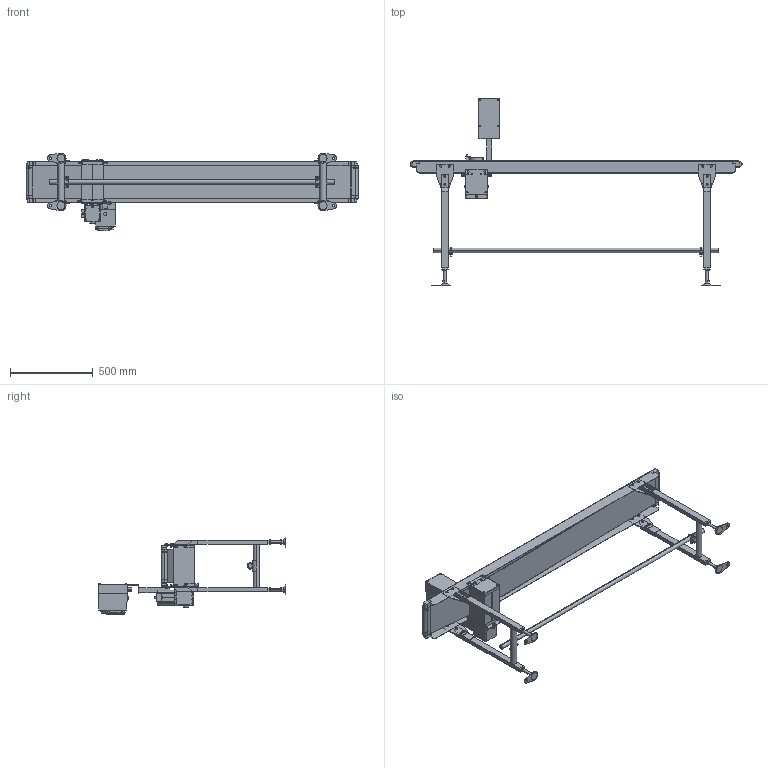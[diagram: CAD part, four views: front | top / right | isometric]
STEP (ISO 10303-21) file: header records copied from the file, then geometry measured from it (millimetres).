
FILE_DESCRIPTION (( 'STEP AP214' ), '1' );
FILE_NAME ('FSDHS-200-2000-R.STEP', '2023-04-20T23:33:19', ( '' ), ( '' ), 'SwSTEP 2.0', 'SolidWorks 2017', '' );
FILE_SCHEMA (( 'AUTOMOTIVE_DESIGN' ));
Length unit declared in the file: millimetre
Products named in the file (1): FSDHS-200-2000-R
Bounding box: 2001.4 x 1131 x 469.99 mm (x, y, z)
Volume: 17310240.1 mm3; surface area: 4935906.8 mm2
Topology: 48 solids, 54 shells, 2266 faces, 5572 edges, 3646 vertices
Faces by surface type: plane 1470, cylinder 733, cone 45, bspline 14, torus 4
Entity records: 94319 total; most frequent: CARTESIAN_POINT 13679, DIRECTION 11636, ORIENTED_EDGE 11124, EDGE_CURVE 5562, AXIS2_PLACEMENT_3D 3894, LINE 3848, VECTOR 3848, VERTEX_POINT 3646
